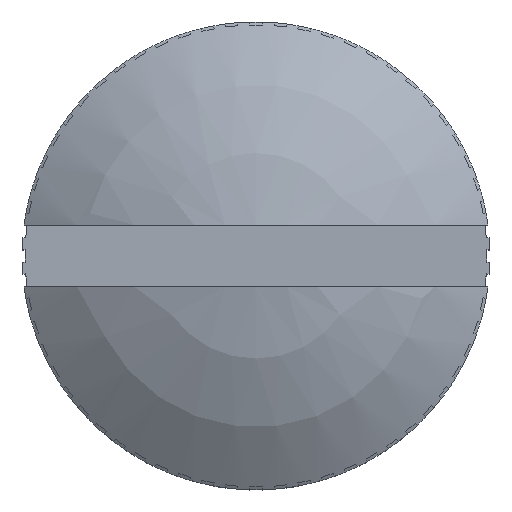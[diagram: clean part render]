
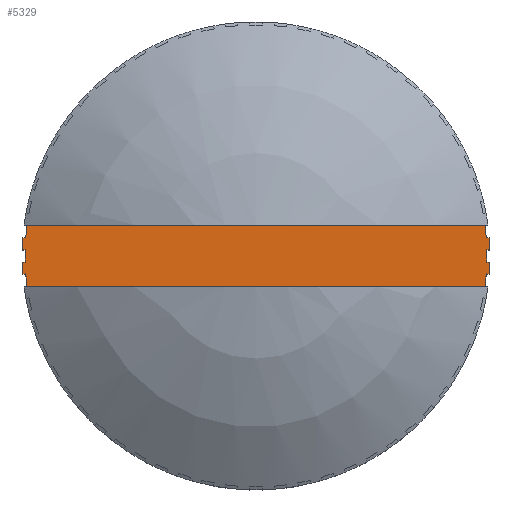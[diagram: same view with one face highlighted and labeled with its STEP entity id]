
A CAD part, top view. The second image highlights one B-rep face of the part: STEP entity #5329.
In plain terms, the highlighted planar face has unit normal (0, 0, 1).
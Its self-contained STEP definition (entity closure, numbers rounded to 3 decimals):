
#290=LINE('',#7710,#712);
#292=LINE('',#7726,#714);
#295=LINE('',#7736,#717);
#297=LINE('',#7742,#719);
#299=LINE('',#7758,#721);
#302=LINE('',#7768,#724);
#304=LINE('',#7774,#726);
#306=LINE('',#7790,#728);
#309=LINE('',#7800,#731);
#500=LINE('',#8724,#922);
#502=LINE('',#8740,#924);
#505=LINE('',#8750,#927);
#507=LINE('',#8756,#929);
#509=LINE('',#8772,#931);
#512=LINE('',#8782,#934);
#514=LINE('',#8788,#936);
#516=LINE('',#8804,#938);
#519=LINE('',#8814,#941);
#618=LINE('',#9484,#1040);
#619=LINE('',#9487,#1041);
#712=VECTOR('',#6075,0.097);
#714=VECTOR('',#6079,0.4);
#717=VECTOR('',#6084,0.097);
#719=VECTOR('',#6088,0.097);
#721=VECTOR('',#6092,0.4);
#724=VECTOR('',#6097,0.097);
#726=VECTOR('',#6101,0.097);
#728=VECTOR('',#6105,0.4);
#731=VECTOR('',#6110,0.097);
#922=VECTOR('',#6573,0.097);
#924=VECTOR('',#6577,0.4);
#927=VECTOR('',#6582,0.097);
#929=VECTOR('',#6586,0.097);
#931=VECTOR('',#6590,0.4);
#934=VECTOR('',#6595,0.097);
#936=VECTOR('',#6599,0.097);
#938=VECTOR('',#6603,0.4);
#941=VECTOR('',#6608,0.097);
#1040=VECTOR('',#7223,15.068);
#1041=VECTOR('',#7228,15.068);
#1279=PLANE('',#5824);
#1653=FACE_OUTER_BOUND('',#1965,.T.);
#1965=EDGE_LOOP('',(#4878,#4879,#4880,#4881,#4882,#4883,#4884,#4885,#4886,
#4887,#4888,#4889,#4890,#4891,#4892,#4893,#4894,#4895,#4896,#4897,#4898,
#4899,#4900,#4901,#4902,#4903,#4904,#4905));
#2060=CIRCLE('',#5669,7.6);
#2063=CIRCLE('',#5673,7.6);
#2065=CIRCLE('',#5676,7.6);
#2068=CIRCLE('',#5680,7.6);
#2122=CIRCLE('',#5761,7.6);
#2125=CIRCLE('',#5765,7.6);
#2127=CIRCLE('',#5768,7.6);
#2130=CIRCLE('',#5772,7.6);
#2273=VERTEX_POINT('',#7706);
#2275=VERTEX_POINT('',#7709);
#2278=VERTEX_POINT('',#7725);
#2280=VERTEX_POINT('',#7730);
#2281=VERTEX_POINT('',#7738);
#2283=VERTEX_POINT('',#7741);
#2286=VERTEX_POINT('',#7757);
#2288=VERTEX_POINT('',#7762);
#2289=VERTEX_POINT('',#7770);
#2291=VERTEX_POINT('',#7773);
#2294=VERTEX_POINT('',#7789);
#2296=VERTEX_POINT('',#7794);
#2513=VERTEX_POINT('',#8720);
#2515=VERTEX_POINT('',#8723);
#2518=VERTEX_POINT('',#8739);
#2520=VERTEX_POINT('',#8744);
#2521=VERTEX_POINT('',#8752);
#2523=VERTEX_POINT('',#8755);
#2526=VERTEX_POINT('',#8771);
#2528=VERTEX_POINT('',#8776);
#2529=VERTEX_POINT('',#8784);
#2531=VERTEX_POINT('',#8787);
#2534=VERTEX_POINT('',#8803);
#2536=VERTEX_POINT('',#8808);
#2643=VERTEX_POINT('',#9300);
#2644=VERTEX_POINT('',#9311);
#2645=VERTEX_POINT('',#9394);
#2646=VERTEX_POINT('',#9405);
#2805=EDGE_CURVE('',#2275,#2273,#290,.T.);
#2809=EDGE_CURVE('',#2278,#2275,#292,.T.);
#2813=EDGE_CURVE('',#2280,#2278,#295,.T.);
#2815=EDGE_CURVE('',#2283,#2281,#297,.T.);
#2819=EDGE_CURVE('',#2286,#2283,#299,.T.);
#2823=EDGE_CURVE('',#2288,#2286,#302,.T.);
#2825=EDGE_CURVE('',#2291,#2289,#304,.T.);
#2829=EDGE_CURVE('',#2294,#2291,#306,.T.);
#2833=EDGE_CURVE('',#2296,#2294,#309,.T.);
#3132=EDGE_CURVE('',#2515,#2513,#500,.T.);
#3136=EDGE_CURVE('',#2518,#2515,#502,.T.);
#3140=EDGE_CURVE('',#2520,#2518,#505,.T.);
#3142=EDGE_CURVE('',#2523,#2521,#507,.T.);
#3146=EDGE_CURVE('',#2526,#2523,#509,.T.);
#3150=EDGE_CURVE('',#2528,#2526,#512,.T.);
#3152=EDGE_CURVE('',#2531,#2529,#514,.T.);
#3156=EDGE_CURVE('',#2534,#2531,#516,.T.);
#3160=EDGE_CURVE('',#2536,#2534,#519,.T.);
#3331=EDGE_CURVE('',#2643,#2536,#2060,.T.);
#3334=EDGE_CURVE('',#2529,#2528,#2063,.T.);
#3336=EDGE_CURVE('',#2521,#2520,#2065,.T.);
#3339=EDGE_CURVE('',#2513,#2644,#2068,.T.);
#3393=EDGE_CURVE('',#2645,#2296,#2122,.T.);
#3396=EDGE_CURVE('',#2289,#2288,#2125,.T.);
#3398=EDGE_CURVE('',#2281,#2280,#2127,.T.);
#3401=EDGE_CURVE('',#2273,#2646,#2130,.T.);
#3441=EDGE_CURVE('',#2643,#2646,#618,.T.);
#3443=EDGE_CURVE('',#2645,#2644,#619,.T.);
#4878=ORIENTED_EDGE('',*,*,#2805,.T.);
#4879=ORIENTED_EDGE('',*,*,#3401,.T.);
#4880=ORIENTED_EDGE('',*,*,#3441,.F.);
#4881=ORIENTED_EDGE('',*,*,#3331,.T.);
#4882=ORIENTED_EDGE('',*,*,#3160,.T.);
#4883=ORIENTED_EDGE('',*,*,#3156,.T.);
#4884=ORIENTED_EDGE('',*,*,#3152,.T.);
#4885=ORIENTED_EDGE('',*,*,#3334,.T.);
#4886=ORIENTED_EDGE('',*,*,#3150,.T.);
#4887=ORIENTED_EDGE('',*,*,#3146,.T.);
#4888=ORIENTED_EDGE('',*,*,#3142,.T.);
#4889=ORIENTED_EDGE('',*,*,#3336,.T.);
#4890=ORIENTED_EDGE('',*,*,#3140,.T.);
#4891=ORIENTED_EDGE('',*,*,#3136,.T.);
#4892=ORIENTED_EDGE('',*,*,#3132,.T.);
#4893=ORIENTED_EDGE('',*,*,#3339,.T.);
#4894=ORIENTED_EDGE('',*,*,#3443,.F.);
#4895=ORIENTED_EDGE('',*,*,#3393,.T.);
#4896=ORIENTED_EDGE('',*,*,#2833,.T.);
#4897=ORIENTED_EDGE('',*,*,#2829,.T.);
#4898=ORIENTED_EDGE('',*,*,#2825,.T.);
#4899=ORIENTED_EDGE('',*,*,#3396,.T.);
#4900=ORIENTED_EDGE('',*,*,#2823,.T.);
#4901=ORIENTED_EDGE('',*,*,#2819,.T.);
#4902=ORIENTED_EDGE('',*,*,#2815,.T.);
#4903=ORIENTED_EDGE('',*,*,#3398,.T.);
#4904=ORIENTED_EDGE('',*,*,#2813,.T.);
#4905=ORIENTED_EDGE('',*,*,#2809,.T.);
#5329=ADVANCED_FACE('',(#1653),#1279,.F.);
#5669=AXIS2_PLACEMENT_3D('',#9301,#6911,#6912);
#5673=AXIS2_PLACEMENT_3D('',#9305,#6919,#6920);
#5676=AXIS2_PLACEMENT_3D('',#9308,#6925,#6926);
#5680=AXIS2_PLACEMENT_3D('',#9313,#6933,#6934);
#5761=AXIS2_PLACEMENT_3D('',#9395,#7095,#7096);
#5765=AXIS2_PLACEMENT_3D('',#9399,#7103,#7104);
#5768=AXIS2_PLACEMENT_3D('',#9402,#7109,#7110);
#5772=AXIS2_PLACEMENT_3D('',#9407,#7117,#7118);
#5824=AXIS2_PLACEMENT_3D('',#9488,#7229,#7230);
#6075=DIRECTION('',(-0.995,-0.105,0.));
#6079=DIRECTION('',(0.105,-0.995,0.));
#6084=DIRECTION('',(0.995,0.105,0.));
#6088=DIRECTION('',(-1.,0.,0.));
#6092=DIRECTION('',(0.,-1.,0.));
#6097=DIRECTION('',(1.,0.,0.));
#6101=DIRECTION('',(-0.995,0.105,0.));
#6105=DIRECTION('',(-0.105,-0.995,0.));
#6110=DIRECTION('',(0.995,-0.105,0.));
#6573=DIRECTION('',(0.995,0.105,0.));
#6577=DIRECTION('',(-0.105,0.995,0.));
#6582=DIRECTION('',(-0.995,-0.105,0.));
#6586=DIRECTION('',(1.,0.,0.));
#6590=DIRECTION('',(0.,1.,0.));
#6595=DIRECTION('',(-1.,0.,0.));
#6599=DIRECTION('',(0.995,-0.105,0.));
#6603=DIRECTION('',(0.105,0.995,0.));
#6608=DIRECTION('',(-0.995,0.105,0.));
#6911=DIRECTION('center_axis',(0.,0.,1.));
#6912=DIRECTION('ref_axis',(1.,0.,0.));
#6919=DIRECTION('center_axis',(0.,0.,1.));
#6920=DIRECTION('ref_axis',(1.,0.,0.));
#6925=DIRECTION('center_axis',(0.,0.,1.));
#6926=DIRECTION('ref_axis',(1.,0.,0.));
#6933=DIRECTION('center_axis',(0.,0.,1.));
#6934=DIRECTION('ref_axis',(1.,0.,0.));
#7095=DIRECTION('center_axis',(0.,0.,1.));
#7096=DIRECTION('ref_axis',(1.,0.,0.));
#7103=DIRECTION('center_axis',(0.,0.,1.));
#7104=DIRECTION('ref_axis',(1.,0.,0.));
#7109=DIRECTION('center_axis',(0.,0.,1.));
#7110=DIRECTION('ref_axis',(1.,0.,0.));
#7117=DIRECTION('center_axis',(0.,0.,1.));
#7118=DIRECTION('ref_axis',(1.,0.,0.));
#7223=DIRECTION('',(-1.,0.,0.));
#7228=DIRECTION('',(1.,0.,0.));
#7229=DIRECTION('center_axis',(0.,0.,-1.));
#7230=DIRECTION('ref_axis',(0.,1.,0.));
#7706=CARTESIAN_POINT('',(-7.535,-0.993,-2.5));
#7709=CARTESIAN_POINT('',(-7.438,-0.983,-2.5));
#7710=CARTESIAN_POINT('',(-3.885,-0.609,-2.5));
#7725=CARTESIAN_POINT('',(-7.48,-0.585,-2.5));
#7726=CARTESIAN_POINT('',(-7.407,-1.279,-2.5));
#7730=CARTESIAN_POINT('',(-7.577,-0.595,-2.5));
#7736=CARTESIAN_POINT('',(-3.927,-0.212,-2.5));
#7738=CARTESIAN_POINT('',(-7.597,-0.2,-2.5));
#7741=CARTESIAN_POINT('',(-7.5,-0.2,-2.5));
#7742=CARTESIAN_POINT('',(-3.875,-0.2,-2.5));
#7757=CARTESIAN_POINT('',(-7.5,0.2,-2.5));
#7758=CARTESIAN_POINT('',(-7.5,-0.5,-2.5));
#7762=CARTESIAN_POINT('',(-7.597,0.2,-2.5));
#7768=CARTESIAN_POINT('',(-3.875,0.2,-2.5));
#7770=CARTESIAN_POINT('',(-7.577,0.595,-2.5));
#7773=CARTESIAN_POINT('',(-7.48,0.585,-2.5));
#7774=CARTESIAN_POINT('',(-3.823,0.201,-2.5));
#7789=CARTESIAN_POINT('',(-7.438,0.983,-2.5));
#7790=CARTESIAN_POINT('',(-7.511,0.289,-2.5));
#7794=CARTESIAN_POINT('',(-7.535,0.993,-2.5));
#7800=CARTESIAN_POINT('',(-3.781,0.598,-2.5));
#8720=CARTESIAN_POINT('',(7.535,0.993,-2.5));
#8723=CARTESIAN_POINT('',(7.438,0.983,-2.5));
#8724=CARTESIAN_POINT('',(3.781,0.598,-2.5));
#8739=CARTESIAN_POINT('',(7.48,0.585,-2.5));
#8740=CARTESIAN_POINT('',(7.511,0.289,-2.5));
#8744=CARTESIAN_POINT('',(7.577,0.595,-2.5));
#8750=CARTESIAN_POINT('',(3.823,0.201,-2.5));
#8752=CARTESIAN_POINT('',(7.597,0.2,-2.5));
#8755=CARTESIAN_POINT('',(7.5,0.2,-2.5));
#8756=CARTESIAN_POINT('',(3.875,0.2,-2.5));
#8771=CARTESIAN_POINT('',(7.5,-0.2,-2.5));
#8772=CARTESIAN_POINT('',(7.5,-0.5,-2.5));
#8776=CARTESIAN_POINT('',(7.597,-0.2,-2.5));
#8782=CARTESIAN_POINT('',(3.875,-0.2,-2.5));
#8784=CARTESIAN_POINT('',(7.577,-0.595,-2.5));
#8787=CARTESIAN_POINT('',(7.48,-0.585,-2.5));
#8788=CARTESIAN_POINT('',(3.927,-0.212,-2.5));
#8803=CARTESIAN_POINT('',(7.438,-0.983,-2.5));
#8804=CARTESIAN_POINT('',(7.407,-1.279,-2.5));
#8808=CARTESIAN_POINT('',(7.535,-0.993,-2.5));
#8814=CARTESIAN_POINT('',(3.885,-0.609,-2.5));
#9300=CARTESIAN_POINT('',(7.534,-1.,-2.5));
#9301=CARTESIAN_POINT('Origin',(0.,0.,-2.5));
#9305=CARTESIAN_POINT('Origin',(0.,0.,-2.5));
#9308=CARTESIAN_POINT('Origin',(0.,0.,-2.5));
#9311=CARTESIAN_POINT('',(7.534,1.,-2.5));
#9313=CARTESIAN_POINT('Origin',(0.,0.,-2.5));
#9394=CARTESIAN_POINT('',(-7.534,1.,-2.5));
#9395=CARTESIAN_POINT('Origin',(0.,0.,-2.5));
#9399=CARTESIAN_POINT('Origin',(0.,0.,-2.5));
#9402=CARTESIAN_POINT('Origin',(0.,0.,-2.5));
#9405=CARTESIAN_POINT('',(-7.534,-1.,-2.5));
#9407=CARTESIAN_POINT('Origin',(0.,0.,-2.5));
#9484=CARTESIAN_POINT('',(0.,-1.,-2.5));
#9487=CARTESIAN_POINT('',(0.,1.,-2.5));
#9488=CARTESIAN_POINT('Origin',(0.,-1.,-2.5));
